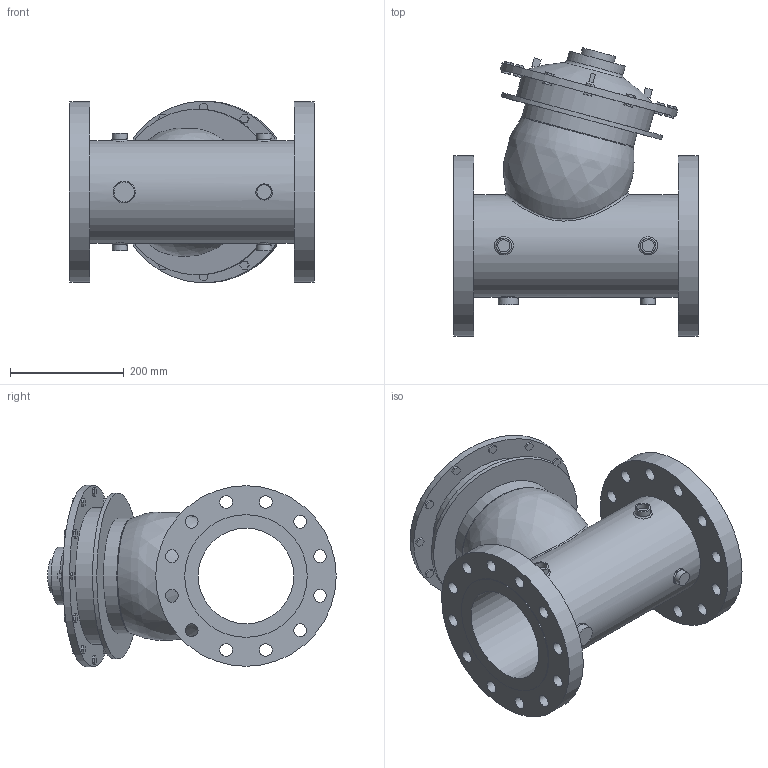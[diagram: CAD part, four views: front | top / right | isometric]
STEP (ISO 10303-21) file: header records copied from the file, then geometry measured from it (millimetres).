
FILE_DESCRIPTION(/* description */ ('VIC FP VALVE PRESSURE RELIEF SERIES 867-7UF (FLG 300)','CAx-IF Rec.Pracs.---Representation and Presentation of Product Manufacturing Information (PMI)---4.0---2014-10-13'),/* implementation_level */ '2;1');
FILE_NAME(/* name */ 'C:\Series 867-7UF\Series 867-7UF final\Victaulic_FP-Bermad_Valve Pressure Relief_Series 867-7UF (FLG 300)\Victaulic_FP-Bermad_Valve Pressure Relief_Series 867-7UF (FLG 300)_6 (150).stp',/* time_stamp */ '2021-09-02T16:53:18+05:00',/* author */ ('kkamble'),/* organization */ ('Victaulic'),/* preprocessor_version */ 'ST-DEVELOPER v17.2',/* originating_system */ 'Autodesk Inventor 2019',/* authorisation */ '');
FILE_SCHEMA (('AP242_MANAGED_MODEL_BASED_3D_ENGINEERING_MIM_LF { 1 0 10303 442 1 1 4 }'));
Length unit declared in the file: inch
Products named in the file (1): 867-7UF-06.0
Bounding box: 433.07 x 508 x 320.04 mm (x, y, z)
Volume: 14760728.3 mm3; surface area: 1096949 mm2
Topology: 1 solids, 1 shells, 271 faces, 697 edges, 473 vertices
Faces by surface type: plane 214, cylinder 46, bspline 9, torus 2
Full cylindrical faces by diameter (mm): 21.336 x4, 22.225 x24, 25.4 x1, 26.873 x4, 35.56 x1, 60.325 x1, 101.6 x1, 168.275 x1, 180.975 x1, 203.2 x1, 215.9 x2, 241.3 x1, 292.1 x1, 318.008 x2, 320.04 x1
Entity records: 9788 total; most frequent: CARTESIAN_POINT 2584, ORIENTED_EDGE 1406, DIRECTION 1346, EDGE_CURVE 703, LINE 530, VECTOR 530, VERTEX_POINT 479, AXIS2_PLACEMENT_3D 408
